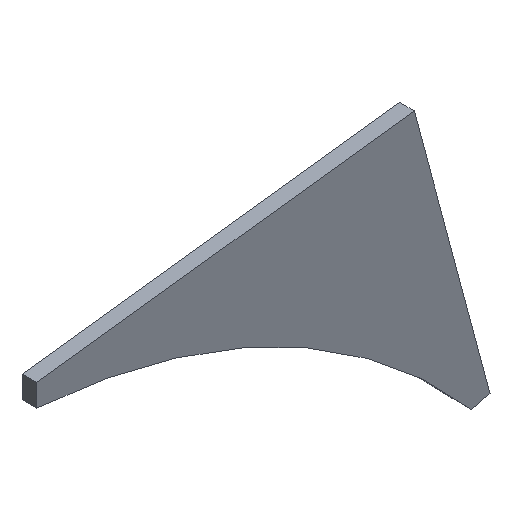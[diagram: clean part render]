
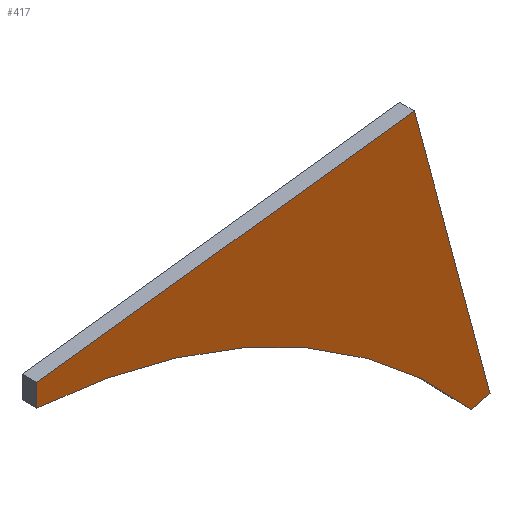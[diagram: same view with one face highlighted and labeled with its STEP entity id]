
A CAD part, isometric view. The second image highlights one B-rep face of the part: STEP entity #417.
In plain terms, the highlighted planar face has unit normal (0, -1, 0).
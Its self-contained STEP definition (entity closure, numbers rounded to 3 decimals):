
#32 = PLANE('',#33);
#33 = AXIS2_PLACEMENT_3D('',#34,#35,#36);
#34 = CARTESIAN_POINT('',(-546.335,69.218,-495.285
    ));
#35 = DIRECTION('',(-0.122,0.,0.992));
#36 = DIRECTION('',(0.992,0.,0.122));
#57 = VERTEX_POINT('',#58);
#58 = CARTESIAN_POINT('',(-674.805,69.218,
    -511.118));
#72 = PLANE('',#73);
#73 = AXIS2_PLACEMENT_3D('',#74,#75,#76);
#74 = CARTESIAN_POINT('',(-674.805,69.218,
    -518.673));
#75 = DIRECTION('',(-1.,0.,0.));
#76 = DIRECTION('',(0.,0.,-1.));
#84 = EDGE_CURVE('',#57,#85,#87,.T.);
#85 = VERTEX_POINT('',#86);
#86 = CARTESIAN_POINT('',(-417.866,69.218,
    -479.453));
#87 = SURFACE_CURVE('',#88,(#92,#99),.PCURVE_S1.);
#88 = LINE('',#89,#90);
#89 = CARTESIAN_POINT('',(-674.805,69.218,
    -511.118));
#90 = VECTOR('',#91,1.);
#91 = DIRECTION('',(0.992,0.,0.122));
#92 = PCURVE('',#32,#93);
#93 = DEFINITIONAL_REPRESENTATION('',(#94),#98);
#94 = LINE('',#95,#96);
#95 = CARTESIAN_POINT('',(-129.441,0.));
#96 = VECTOR('',#97,1.);
#97 = DIRECTION('',(1.,0.));
#98 = ( GEOMETRIC_REPRESENTATION_CONTEXT(2) 
PARAMETRIC_REPRESENTATION_CONTEXT() REPRESENTATION_CONTEXT('2D SPACE',''
  ) );
#99 = PCURVE('',#100,#105);
#100 = PLANE('',#101);
#101 = AXIS2_PLACEMENT_3D('',#102,#103,#104);
#102 = CARTESIAN_POINT('',(-497.113,69.218,
    -553.994));
#103 = DIRECTION('',(0.,1.,0.));
#104 = DIRECTION('',(0.,0.,1.));
#105 = DEFINITIONAL_REPRESENTATION('',(#106),#110);
#106 = LINE('',#107,#108);
#107 = CARTESIAN_POINT('',(42.877,-177.692));
#108 = VECTOR('',#109,1.);
#109 = DIRECTION('',(0.122,0.992));
#110 = ( GEOMETRIC_REPRESENTATION_CONTEXT(2) 
PARAMETRIC_REPRESENTATION_CONTEXT() REPRESENTATION_CONTEXT('2D SPACE',''
  ) );
#126 = PLANE('',#127);
#127 = AXIS2_PLACEMENT_3D('',#128,#129,#130);
#128 = CARTESIAN_POINT('',(-392.101,69.218,
    -575.611));
#129 = DIRECTION('',(0.966,0.,0.259));
#130 = DIRECTION('',(-0.259,0.,0.966));
#165 = VERTEX_POINT('',#166);
#166 = CARTESIAN_POINT('',(-674.805,69.218,
    -526.228));
#180 = CYLINDRICAL_SURFACE('',#181,433.994);
#181 = AXIS2_PLACEMENT_3D('',#182,#183,#184);
#182 = CARTESIAN_POINT('',(-706.998,69.218,
    -959.026));
#183 = DIRECTION('',(0.,1.,0.));
#184 = DIRECTION('',(1.,0.,0.));
#192 = EDGE_CURVE('',#165,#57,#193,.T.);
#193 = SURFACE_CURVE('',#194,(#198,#205),.PCURVE_S1.);
#194 = LINE('',#195,#196);
#195 = CARTESIAN_POINT('',(-674.805,69.218,
    -526.228));
#196 = VECTOR('',#197,1.);
#197 = DIRECTION('',(0.,0.,1.));
#198 = PCURVE('',#72,#199);
#199 = DEFINITIONAL_REPRESENTATION('',(#200),#204);
#200 = LINE('',#201,#202);
#201 = CARTESIAN_POINT('',(7.555,0.));
#202 = VECTOR('',#203,1.);
#203 = DIRECTION('',(-1.,0.));
#204 = ( GEOMETRIC_REPRESENTATION_CONTEXT(2) 
PARAMETRIC_REPRESENTATION_CONTEXT() REPRESENTATION_CONTEXT('2D SPACE',''
  ) );
#205 = PCURVE('',#100,#206);
#206 = DEFINITIONAL_REPRESENTATION('',(#207),#211);
#207 = LINE('',#208,#209);
#208 = CARTESIAN_POINT('',(27.767,-177.692));
#209 = VECTOR('',#210,1.);
#210 = DIRECTION('',(1.,0.));
#211 = ( GEOMETRIC_REPRESENTATION_CONTEXT(2) 
PARAMETRIC_REPRESENTATION_CONTEXT() REPRESENTATION_CONTEXT('2D SPACE',''
  ) );
#218 = EDGE_CURVE('',#165,#219,#221,.T.);
#219 = VERTEX_POINT('',#220);
#220 = CARTESIAN_POINT('',(-378.765,69.218,
    -675.1));
#221 = SURFACE_CURVE('',#222,(#227,#234),.PCURVE_S1.);
#222 = CIRCLE('',#223,433.994);
#223 = AXIS2_PLACEMENT_3D('',#224,#225,#226);
#224 = CARTESIAN_POINT('',(-706.998,69.218,
    -959.026));
#225 = DIRECTION('',(0.,1.,0.));
#226 = DIRECTION('',(1.,0.,0.));
#227 = PCURVE('',#180,#228);
#228 = DEFINITIONAL_REPRESENTATION('',(#229),#233);
#229 = LINE('',#230,#231);
#230 = CARTESIAN_POINT('',(0.,0.));
#231 = VECTOR('',#232,1.);
#232 = DIRECTION('',(1.,0.));
#233 = ( GEOMETRIC_REPRESENTATION_CONTEXT(2) 
PARAMETRIC_REPRESENTATION_CONTEXT() REPRESENTATION_CONTEXT('2D SPACE',''
  ) );
#234 = PCURVE('',#100,#235);
#235 = DEFINITIONAL_REPRESENTATION('',(#236),#240);
#236 = CIRCLE('',#237,433.994);
#237 = AXIS2_PLACEMENT_2D('',#238,#239);
#238 = CARTESIAN_POINT('',(-405.032,-209.886));
#239 = DIRECTION('',(0.,1.));
#240 = ( GEOMETRIC_REPRESENTATION_CONTEXT(2) 
PARAMETRIC_REPRESENTATION_CONTEXT() REPRESENTATION_CONTEXT('2D SPACE',''
  ) );
#258 = PLANE('',#259);
#259 = AXIS2_PLACEMENT_3D('',#260,#261,#262);
#260 = CARTESIAN_POINT('',(-372.55,69.218,
    -673.434));
#261 = DIRECTION('',(0.259,0.,-0.966));
#262 = DIRECTION('',(-0.966,0.,-0.259));
#319 = VERTEX_POINT('',#320);
#320 = CARTESIAN_POINT('',(-366.335,69.218,
    -671.769));
#341 = EDGE_CURVE('',#319,#219,#342,.T.);
#342 = SURFACE_CURVE('',#343,(#347,#354),.PCURVE_S1.);
#343 = LINE('',#344,#345);
#344 = CARTESIAN_POINT('',(-366.335,69.218,
    -671.769));
#345 = VECTOR('',#346,1.);
#346 = DIRECTION('',(-0.966,0.,-0.259));
#347 = PCURVE('',#258,#348);
#348 = DEFINITIONAL_REPRESENTATION('',(#349),#353);
#349 = LINE('',#350,#351);
#350 = CARTESIAN_POINT('',(-6.434,0.));
#351 = VECTOR('',#352,1.);
#352 = DIRECTION('',(1.,0.));
#353 = ( GEOMETRIC_REPRESENTATION_CONTEXT(2) 
PARAMETRIC_REPRESENTATION_CONTEXT() REPRESENTATION_CONTEXT('2D SPACE',''
  ) );
#354 = PCURVE('',#100,#355);
#355 = DEFINITIONAL_REPRESENTATION('',(#356),#360);
#356 = LINE('',#357,#358);
#357 = CARTESIAN_POINT('',(-117.775,130.778));
#358 = VECTOR('',#359,1.);
#359 = DIRECTION('',(-0.259,-0.966));
#360 = ( GEOMETRIC_REPRESENTATION_CONTEXT(2) 
PARAMETRIC_REPRESENTATION_CONTEXT() REPRESENTATION_CONTEXT('2D SPACE',''
  ) );
#388 = EDGE_CURVE('',#85,#319,#389,.T.);
#389 = SURFACE_CURVE('',#390,(#394,#401),.PCURVE_S1.);
#390 = LINE('',#391,#392);
#391 = CARTESIAN_POINT('',(-417.866,69.218,
    -479.453));
#392 = VECTOR('',#393,1.);
#393 = DIRECTION('',(0.259,0.,-0.966));
#394 = PCURVE('',#126,#395);
#395 = DEFINITIONAL_REPRESENTATION('',(#396),#400);
#396 = LINE('',#397,#398);
#397 = CARTESIAN_POINT('',(99.55,0.));
#398 = VECTOR('',#399,1.);
#399 = DIRECTION('',(-1.,0.));
#400 = ( GEOMETRIC_REPRESENTATION_CONTEXT(2) 
PARAMETRIC_REPRESENTATION_CONTEXT() REPRESENTATION_CONTEXT('2D SPACE',''
  ) );
#401 = PCURVE('',#100,#402);
#402 = DEFINITIONAL_REPRESENTATION('',(#403),#407);
#403 = LINE('',#404,#405);
#404 = CARTESIAN_POINT('',(74.542,79.247));
#405 = VECTOR('',#406,1.);
#406 = DIRECTION('',(-0.966,0.259));
#407 = ( GEOMETRIC_REPRESENTATION_CONTEXT(2) 
PARAMETRIC_REPRESENTATION_CONTEXT() REPRESENTATION_CONTEXT('2D SPACE',''
  ) );
#417 = ADVANCED_FACE('',(#418),#100,.F.);
#418 = FACE_BOUND('',#419,.T.);
#419 = EDGE_LOOP('',(#420,#421,#422,#423,#424));
#420 = ORIENTED_EDGE('',*,*,#388,.F.);
#421 = ORIENTED_EDGE('',*,*,#84,.F.);
#422 = ORIENTED_EDGE('',*,*,#192,.F.);
#423 = ORIENTED_EDGE('',*,*,#218,.T.);
#424 = ORIENTED_EDGE('',*,*,#341,.F.);
